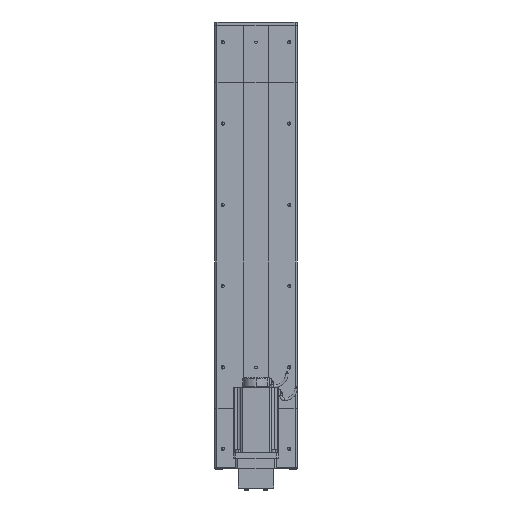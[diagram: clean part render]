
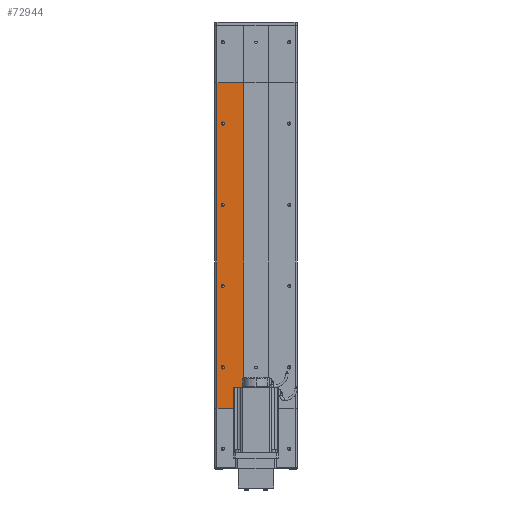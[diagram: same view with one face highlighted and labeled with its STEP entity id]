
A CAD part, front view. The second image highlights one B-rep face of the part: STEP entity #72944.
In plain terms, the highlighted planar face has unit normal (0, -1, 0).
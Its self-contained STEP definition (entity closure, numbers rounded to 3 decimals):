
#946 = CARTESIAN_POINT ( 'NONE',  ( -78., -34.5, 100. ) ) ;
#1067 = CARTESIAN_POINT ( 'NONE',  ( -86., -34.5, 500. ) ) ;
#1118 = CARTESIAN_POINT ( 'NONE',  ( -78., -34.5, 300. ) ) ;
#1313 = AXIS2_PLACEMENT_3D ( 'NONE', #1363, #1315, #1356 ) ;
#1315 = DIRECTION ( 'NONE',  ( 0., -1., 0. ) ) ;
#1356 = DIRECTION ( 'NONE',  ( 1., 0., 0. ) ) ;
#1363 = CARTESIAN_POINT ( 'NONE',  ( -82., -34.5, 700. ) ) ;
#1401 = CIRCLE ( 'NONE', #1313, 4. ) ;
#2022 = CARTESIAN_POINT ( 'NONE',  ( -86., -34.5, 300. ) ) ;
#2038 = CARTESIAN_POINT ( 'NONE',  ( -78., -34.5, 500. ) ) ;
#2058 = CIRCLE ( 'NONE', #2112, 4. ) ;
#2112 = AXIS2_PLACEMENT_3D ( 'NONE', #2301, #2298, #2296 ) ;
#2158 = CARTESIAN_POINT ( 'NONE',  ( -78., -34.5, 700. ) ) ;
#2179 = CARTESIAN_POINT ( 'NONE',  ( -82., -34.5, 500. ) ) ;
#2180 = AXIS2_PLACEMENT_3D ( 'NONE', #2179, #2232, #2230 ) ;
#2229 = CARTESIAN_POINT ( 'NONE',  ( -86., -34.5, 700. ) ) ;
#2230 = DIRECTION ( 'NONE',  ( 1., 0., 0. ) ) ;
#2232 = DIRECTION ( 'NONE',  ( 0., -1., 0. ) ) ;
#2296 = DIRECTION ( 'NONE',  ( 1., 0., 0. ) ) ;
#2298 = DIRECTION ( 'NONE',  ( 0., -1., 0. ) ) ;
#2301 = CARTESIAN_POINT ( 'NONE',  ( -82., -34.5, 300. ) ) ;
#2332 = CIRCLE ( 'NONE', #2180, 4. ) ;
#2806 = CARTESIAN_POINT ( 'NONE',  ( -82., -34.5, 500. ) ) ;
#2810 = DIRECTION ( 'NONE',  ( 1., 0., 0. ) ) ;
#2812 = DIRECTION ( 'NONE',  ( 0., -1., 0. ) ) ;
#2844 = CIRCLE ( 'NONE', #2871, 4. ) ;
#2845 = CARTESIAN_POINT ( 'NONE',  ( -82., -34.5, 100. ) ) ;
#2871 = AXIS2_PLACEMENT_3D ( 'NONE', #2845, #2812, #2810 ) ;
#3051 = CIRCLE ( 'NONE', #3059, 4. ) ;
#3057 = DIRECTION ( 'NONE',  ( 0., -1., 0. ) ) ;
#3059 = AXIS2_PLACEMENT_3D ( 'NONE', #2806, #3057, #3122 ) ;
#3063 = CIRCLE ( 'NONE', #3117, 4. ) ;
#3114 = DIRECTION ( 'NONE',  ( 1., 0., 0. ) ) ;
#3115 = DIRECTION ( 'NONE',  ( 0., -1., 0. ) ) ;
#3116 = CARTESIAN_POINT ( 'NONE',  ( -82., -34.5, 700. ) ) ;
#3117 = AXIS2_PLACEMENT_3D ( 'NONE', #3116, #3115, #3114 ) ;
#3122 = DIRECTION ( 'NONE',  ( 1., 0., 0. ) ) ;
#3368 = DIRECTION ( 'NONE',  ( 1., 0., 0. ) ) ;
#3369 = VECTOR ( 'NONE', #3368, 1000. ) ;
#3371 = CARTESIAN_POINT ( 'NONE',  ( -96., -34.5, 0. ) ) ;
#3380 = LINE ( 'NONE', #3371, #3369 ) ;
#3533 = CARTESIAN_POINT ( 'NONE',  ( -86., -34.5, 100. ) ) ;
#3589 = CARTESIAN_POINT ( 'NONE',  ( -30., -34.5, 800. ) ) ;
#3642 = DIRECTION ( 'NONE',  ( 1., 0., 0. ) ) ;
#3643 = VECTOR ( 'NONE', #3642, 1000. ) ;
#3676 = CARTESIAN_POINT ( 'NONE',  ( -96., -34.5, 800. ) ) ;
#3677 = LINE ( 'NONE', #3676, #3643 ) ;
#4338 = FACE_OUTER_BOUND ( 'NONE', #73079, .T. ) ;
#4344 = FACE_BOUND ( 'NONE', #72726, .T. ) ;
#4362 = FACE_BOUND ( 'NONE', #71371, .T. ) ;
#4423 = FACE_BOUND ( 'NONE', #72938, .T. ) ;
#4441 = CARTESIAN_POINT ( 'NONE',  ( -96., -34.5, 0. ) ) ;
#4509 = AXIS2_PLACEMENT_3D ( 'NONE', #4573, #4572, #4571 ) ;
#4512 = FACE_BOUND ( 'NONE', #72843, .T. ) ;
#4571 = DIRECTION ( 'NONE',  ( -1., 0., 0. ) ) ;
#4572 = DIRECTION ( 'NONE',  ( 0., 1., 0. ) ) ;
#4573 = CARTESIAN_POINT ( 'NONE',  ( -96., -34.5, 800. ) ) ;
#4638 = CIRCLE ( 'NONE', #4772, 4. ) ;
#4684 = DIRECTION ( 'NONE',  ( 0., 0., 1. ) ) ;
#4685 = VECTOR ( 'NONE', #4684, 1000. ) ;
#4698 = CARTESIAN_POINT ( 'NONE',  ( -30., -34.5, 0. ) ) ;
#4699 = LINE ( 'NONE', #4698, #4685 ) ;
#4715 = PLANE ( 'NONE',  #4509 ) ;
#4756 = DIRECTION ( 'NONE',  ( 1., 0., 0. ) ) ;
#4758 = DIRECTION ( 'NONE',  ( 0., -1., 0. ) ) ;
#4761 = CARTESIAN_POINT ( 'NONE',  ( -96., -34.5, 800. ) ) ;
#4770 = CARTESIAN_POINT ( 'NONE',  ( -30., -34.5, 0. ) ) ;
#4772 = AXIS2_PLACEMENT_3D ( 'NONE', #4774, #4758, #4756 ) ;
#4774 = CARTESIAN_POINT ( 'NONE',  ( -82., -34.5, 300. ) ) ;
#71371 = EDGE_LOOP ( 'NONE', ( #72844, #72980 ) ) ;
#71570 = DIRECTION ( 'NONE',  ( 1., 0., 0. ) ) ;
#71571 = DIRECTION ( 'NONE',  ( 0., -1., 0. ) ) ;
#71573 = CARTESIAN_POINT ( 'NONE',  ( -82., -34.5, 100. ) ) ;
#71786 = DIRECTION ( 'NONE',  ( 0., 0., -1. ) ) ;
#71787 = VECTOR ( 'NONE', #71786, 1000. ) ;
#71788 = CARTESIAN_POINT ( 'NONE',  ( -96., -34.5, 800. ) ) ;
#71801 = CIRCLE ( 'NONE', #71822, 4. ) ;
#71803 = LINE ( 'NONE', #71788, #71787 ) ;
#71822 = AXIS2_PLACEMENT_3D ( 'NONE', #71573, #71571, #71570 ) ;
#72365 = VERTEX_POINT ( 'NONE', #1067 ) ;
#72387 = VERTEX_POINT ( 'NONE', #1118 ) ;
#72406 = VERTEX_POINT ( 'NONE', #946 ) ;
#72429 = EDGE_CURVE ( 'NONE', #72596, #72558, #1401, .T. ) ;
#72557 = VERTEX_POINT ( 'NONE', #2038 ) ;
#72558 = VERTEX_POINT ( 'NONE', #2158 ) ;
#72576 = VERTEX_POINT ( 'NONE', #2022 ) ;
#72591 = EDGE_CURVE ( 'NONE', #72365, #72557, #2332, .T. ) ;
#72596 = VERTEX_POINT ( 'NONE', #2229 ) ;
#72605 = EDGE_CURVE ( 'NONE', #72576, #72387, #2058, .T. ) ;
#72704 = EDGE_CURVE ( 'NONE', #72557, #72365, #3051, .T. ) ;
#72705 = EDGE_CURVE ( 'NONE', #72558, #72596, #3063, .T. ) ;
#72706 = ORIENTED_EDGE ( 'NONE', *, *, #72429, .F. ) ;
#72726 = EDGE_LOOP ( 'NONE', ( #72939, #72706 ) ) ;
#72730 = ORIENTED_EDGE ( 'NONE', *, *, #72591, .F. ) ;
#72754 = ORIENTED_EDGE ( 'NONE', *, *, #72704, .F. ) ;
#72764 = EDGE_CURVE ( 'NONE', #72916, #72406, #2844, .T. ) ;
#72824 = ORIENTED_EDGE ( 'NONE', *, *, #72764, .F. ) ;
#72825 = EDGE_CURVE ( 'NONE', #72992, #72982, #3380, .T. ) ;
#72843 = EDGE_LOOP ( 'NONE', ( #72970, #72824 ) ) ;
#72844 = ORIENTED_EDGE ( 'NONE', *, *, #72969, .F. ) ;
#72858 = EDGE_CURVE ( 'NONE', #72971, #72859, #3677, .T. ) ;
#72859 = VERTEX_POINT ( 'NONE', #3589 ) ;
#72863 = ORIENTED_EDGE ( 'NONE', *, *, #73119, .T. ) ;
#72916 = VERTEX_POINT ( 'NONE', #3533 ) ;
#72938 = EDGE_LOOP ( 'NONE', ( #72754, #72730 ) ) ;
#72939 = ORIENTED_EDGE ( 'NONE', *, *, #72705, .F. ) ;
#72944 = ADVANCED_FACE ( 'NONE', ( #4344, #4423, #4362, #4512, #4338 ), #4715, .F. ) ;
#72969 = EDGE_CURVE ( 'NONE', #72387, #72576, #4638, .T. ) ;
#72970 = ORIENTED_EDGE ( 'NONE', *, *, #73086, .F. ) ;
#72971 = VERTEX_POINT ( 'NONE', #4761 ) ;
#72974 = ORIENTED_EDGE ( 'NONE', *, *, #72825, .T. ) ;
#72976 = ORIENTED_EDGE ( 'NONE', *, *, #72858, .F. ) ;
#72980 = ORIENTED_EDGE ( 'NONE', *, *, #72605, .F. ) ;
#72982 = VERTEX_POINT ( 'NONE', #4770 ) ;
#72983 = EDGE_CURVE ( 'NONE', #72982, #72859, #4699, .T. ) ;
#72992 = VERTEX_POINT ( 'NONE', #4441 ) ;
#73079 = EDGE_LOOP ( 'NONE', ( #72974, #73123, #72976, #72863 ) ) ;
#73086 = EDGE_CURVE ( 'NONE', #72406, #72916, #71801, .T. ) ;
#73119 = EDGE_CURVE ( 'NONE', #72971, #72992, #71803, .T. ) ;
#73123 = ORIENTED_EDGE ( 'NONE', *, *, #72983, .T. ) ;
